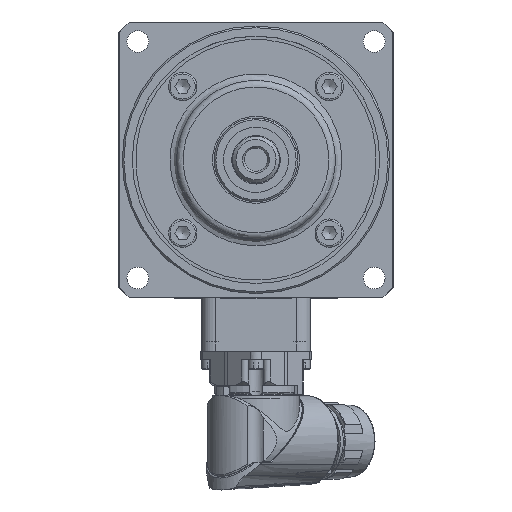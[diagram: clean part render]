
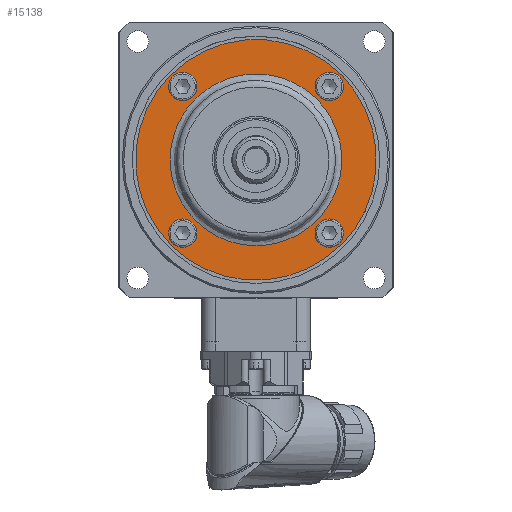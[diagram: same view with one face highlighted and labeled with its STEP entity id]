
A CAD part, top view. The second image highlights one B-rep face of the part: STEP entity #15138.
In plain terms, the highlighted planar face has unit normal (0, 0, 1).
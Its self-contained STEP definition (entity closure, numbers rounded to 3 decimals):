
#320=B_SPLINE_CURVE_WITH_KNOTS('',3,(#27699,#27700,#27701,#27702,#27703,
#27704,#27705,#27706,#27707,#27708,#27709,#27710,#27711,#27712,#27713,#27714,
#27715,#27716),.UNSPECIFIED.,.T.,.F.,(4,1,1,1,1,1,1,1,1,1,1,1,1,1,1,4),
(-32.046,-30.902,-29.757,-28.613,
-27.468,-26.324,-25.179,-23.653,-22.89,
-22.127,-21.364,-20.601,-19.457,
-18.312,-17.168,-16.023),.UNSPECIFIED.);
#887=FACE_BOUND('',#3967,.T.);
#888=FACE_BOUND('',#3968,.T.);
#889=FACE_BOUND('',#3969,.T.);
#890=FACE_BOUND('',#3970,.T.);
#891=FACE_BOUND('',#3971,.T.);
#962=CIRCLE('',#15490,4.25);
#965=CIRCLE('',#15503,4.25);
#1326=CIRCLE('',#16377,36.);
#1327=CIRCLE('',#16378,4.25);
#1328=CIRCLE('',#16379,4.25);
#2957=FACE_OUTER_BOUND('',#3966,.T.);
#3966=EDGE_LOOP('',(#13214));
#3967=EDGE_LOOP('',(#13215));
#3968=EDGE_LOOP('',(#13216));
#3969=EDGE_LOOP('',(#13217));
#3970=EDGE_LOOP('',(#13218));
#3971=EDGE_LOOP('',(#13219));
#6765=VERTEX_POINT('',#21142);
#6780=VERTEX_POINT('',#21200);
#7663=VERTEX_POINT('',#27697);
#7664=VERTEX_POINT('',#27764);
#7665=VERTEX_POINT('',#27766);
#7666=VERTEX_POINT('',#27768);
#8219=EDGE_CURVE('',#6765,#6765,#962,.T.);
#8240=EDGE_CURVE('',#6780,#6780,#965,.T.);
#9552=EDGE_CURVE('',#7663,#7663,#320,.T.);
#9554=EDGE_CURVE('',#7664,#7664,#1326,.T.);
#9555=EDGE_CURVE('',#7665,#7665,#1327,.T.);
#9556=EDGE_CURVE('',#7666,#7666,#1328,.T.);
#13214=ORIENTED_EDGE('',*,*,#9554,.T.);
#13215=ORIENTED_EDGE('',*,*,#9555,.T.);
#13216=ORIENTED_EDGE('',*,*,#8219,.T.);
#13217=ORIENTED_EDGE('',*,*,#9556,.T.);
#13218=ORIENTED_EDGE('',*,*,#8240,.T.);
#13219=ORIENTED_EDGE('',*,*,#9552,.F.);
#14311=PLANE('',#16376);
#15138=ADVANCED_FACE('',(#2957,#887,#888,#889,#890,#891),#14311,.T.);
#15490=AXIS2_PLACEMENT_3D('',#21143,#17249,#17250);
#15503=AXIS2_PLACEMENT_3D('',#21201,#17287,#17288);
#16376=AXIS2_PLACEMENT_3D('',#27763,#19649,#19650);
#16377=AXIS2_PLACEMENT_3D('',#27765,#19651,#19652);
#16378=AXIS2_PLACEMENT_3D('',#27767,#19653,#19654);
#16379=AXIS2_PLACEMENT_3D('',#27769,#19655,#19656);
#17249=DIRECTION('center_axis',(0.,0.,
-1.));
#17250=DIRECTION('ref_axis',(0.,1.,0.));
#17287=DIRECTION('center_axis',(0.,0.,
-1.));
#17288=DIRECTION('ref_axis',(0.,1.,0.));
#19649=DIRECTION('center_axis',(0.,0.,
1.));
#19650=DIRECTION('ref_axis',(0.706,-0.709,0.));
#19651=DIRECTION('center_axis',(0.,0.,
1.));
#19652=DIRECTION('ref_axis',(0.709,0.706,0.));
#19653=DIRECTION('center_axis',(0.,0.,
-1.));
#19654=DIRECTION('ref_axis',(0.,1.,0.));
#19655=DIRECTION('center_axis',(0.,0.,
-1.));
#19656=DIRECTION('ref_axis',(0.,1.,0.));
#21142=CARTESIAN_POINT('',(-21.92,-17.67,-6.738));
#21143=CARTESIAN_POINT('Origin',(-21.92,-21.92,-6.738));
#21200=CARTESIAN_POINT('',(21.92,26.17,-6.738));
#21201=CARTESIAN_POINT('Origin',(21.92,21.92,-6.738));
#27697=CARTESIAN_POINT('',(-18.181,-18.101,-6.738));
#27699=CARTESIAN_POINT('Ctrl Pts',(-18.182,-18.101,
-6.738));
#27700=CARTESIAN_POINT('Ctrl Pts',(-15.484,-20.808,-6.738));
#27701=CARTESIAN_POINT('Ctrl Pts',(-8.878,-25.003,
-6.738));
#27702=CARTESIAN_POINT('Ctrl Pts',(2.877,-26.379,-6.738));
#27703=CARTESIAN_POINT('Ctrl Pts',(14.028,-22.519,-6.738));
#27704=CARTESIAN_POINT('Ctrl Pts',(22.42,-14.194,-6.738));
#27705=CARTESIAN_POINT('Ctrl Pts',(26.35,-3.064,-6.738));
#27706=CARTESIAN_POINT('Ctrl Pts',(24.942,9.993,-6.738));
#27707=CARTESIAN_POINT('Ctrl Pts',(17.829,19.702,-6.738));
#27708=CARTESIAN_POINT('Ctrl Pts',(8.669,24.549,-6.738));
#27709=CARTESIAN_POINT('Ctrl Pts',(1.052,26.024,-6.738));
#27710=CARTESIAN_POINT('Ctrl Pts',(-6.67,25.17,-6.738));
#27711=CARTESIAN_POINT('Ctrl Pts',(-14.981,21.579,-6.738));
#27712=CARTESIAN_POINT('Ctrl Pts',(-22.429,14.18,-6.738));
#27713=CARTESIAN_POINT('Ctrl Pts',(-26.356,3.033,-6.738));
#27714=CARTESIAN_POINT('Ctrl Pts',(-25.072,-8.699,
-6.738));
#27715=CARTESIAN_POINT('Ctrl Pts',(-20.879,-15.393,-6.738));
#27716=CARTESIAN_POINT('Ctrl Pts',(-18.182,-18.101,
-6.738));
#27763=CARTESIAN_POINT('Origin',(21.26,21.166,-6.738));
#27764=CARTESIAN_POINT('',(25.512,25.399,-6.738));
#27765=CARTESIAN_POINT('Origin',(0.,0.,
-6.738));
#27766=CARTESIAN_POINT('',(-21.92,26.17,-6.738));
#27767=CARTESIAN_POINT('Origin',(-21.92,21.92,-6.738));
#27768=CARTESIAN_POINT('',(21.92,-17.67,-6.738));
#27769=CARTESIAN_POINT('Origin',(21.92,-21.92,-6.738));
